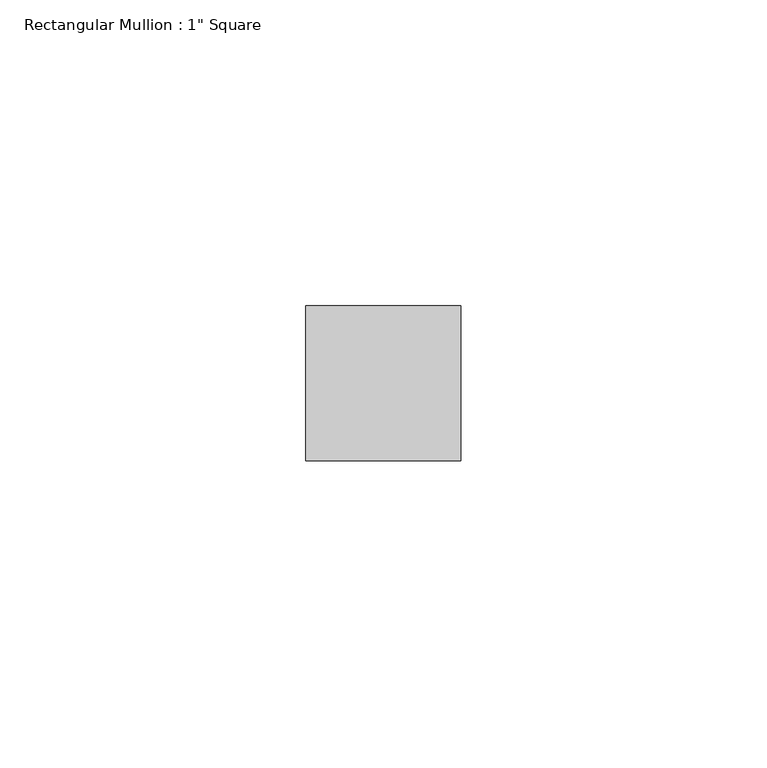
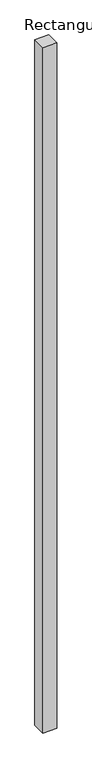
"""IFC4 building model written with IfcOpenShell, lengths in millimetres: member geometry."""

from ifc_helpers import new_model, si_unit, frame, origin, place, context, project, spatial, polyline, outline, extrude, source, transform, mapped, element, save


def member_ff354828(model_context):
    return source(origin(), model_context, "Body", "SweptSolid", [
        extrude(outline(polyline([(12.7, 12.7), (12.7, -12.7), (-12.7, -12.7), (-12.7, 12.7), (12.7, 12.7)])), frame((0.0, 0.0, -1315.6427184), z_axis=(0.0, 0.0, 1.0), x_axis=(1.0, 0.0, 0.0)), (0.0, 0.0, 1.0), 1315.6427184),
    ])


if __name__ == "__main__":
    model = new_model("IFC4")
    model_context = context("Model", 3, world=origin())
    ifc_project = project(units=[si_unit("LENGTHUNIT", "METRE", prefix="MILLI")], contexts=[model_context])
    site = spatial("IfcSite", under=ifc_project)
    building = spatial("IfcBuilding", under=site)
    placement = place(None, origin())
    member_shape = member_ff354828(model_context)
    element("IfcMember", 1, ObjectType="Rectangular Mullion : 1\" Square", at=placement, inside=building, context=model_context, shape_type="MappedRepresentation", body=[
        mapped(member_shape, transform((0.0, 0.0, 0.0), x_axis=(1.0, 0.0, 0.0), y_axis=(0.0, 1.0, 0.0), z_axis=(0.0, 0.0, 1.0))),
    ])
    save(model, "model.ifc")
